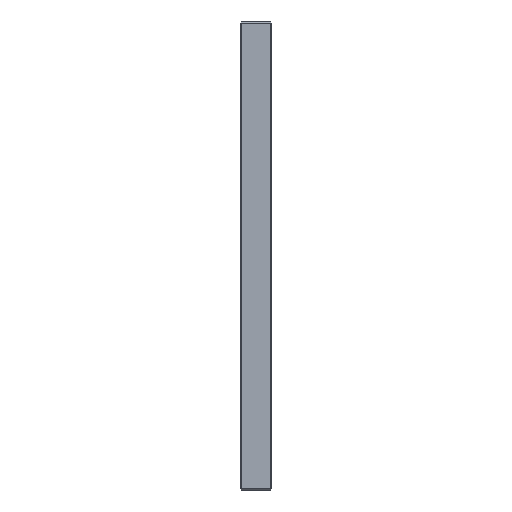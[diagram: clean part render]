
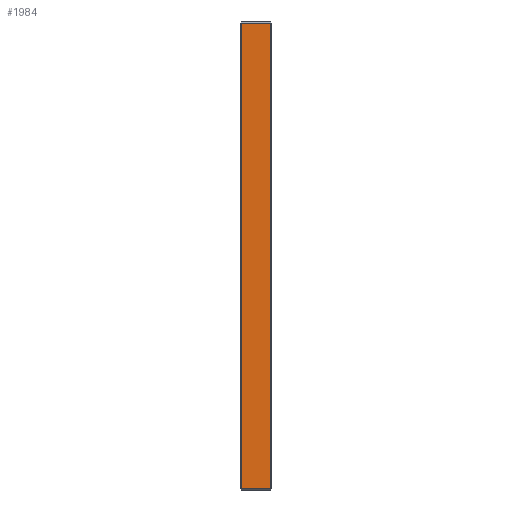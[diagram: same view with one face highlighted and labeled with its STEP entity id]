
A CAD part, left-side view. The second image highlights one B-rep face of the part: STEP entity #1984.
In plain terms, the highlighted planar face has unit normal (-1, 0, 0).
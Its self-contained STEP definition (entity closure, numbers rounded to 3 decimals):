
#72 = VERTEX_POINT ( 'NONE', #1438 ) ;
#175 = LINE ( 'NONE', #2238, #2079 ) ;
#228 = LINE ( 'NONE', #320, #808 ) ;
#259 = CARTESIAN_POINT ( 'NONE',  ( -223., 27., 198. ) ) ;
#320 = CARTESIAN_POINT ( 'NONE',  ( -223., 1., 198. ) ) ;
#433 = EDGE_CURVE ( 'NONE', #1123, #2036, #1752, .T. ) ;
#456 = PLANE ( 'NONE',  #1269 ) ;
#575 = EDGE_LOOP ( 'NONE', ( #2106, #1151, #654, #1586 ) ) ;
#611 = EDGE_CURVE ( 'NONE', #1262, #72, #228, .T. ) ;
#643 = DIRECTION ( 'NONE',  ( 1., 0., 0. ) ) ;
#654 = ORIENTED_EDGE ( 'NONE', *, *, #1725, .T. ) ;
#796 = DIRECTION ( 'NONE',  ( 0., -1., 0. ) ) ;
#808 = VECTOR ( 'NONE', #1445, 1000. ) ;
#809 = FACE_OUTER_BOUND ( 'NONE', #575, .T. ) ;
#821 = DIRECTION ( 'NONE',  ( 0., 0., -1. ) ) ;
#839 = VECTOR ( 'NONE', #1499, 1000. ) ;
#1123 = VERTEX_POINT ( 'NONE', #2235 ) ;
#1151 = ORIENTED_EDGE ( 'NONE', *, *, #611, .T. ) ;
#1262 = VERTEX_POINT ( 'NONE', #1410 ) ;
#1269 = AXIS2_PLACEMENT_3D ( 'NONE', #259, #643, #821 ) ;
#1349 = CARTESIAN_POINT ( 'NONE',  ( -223., 26., -197. ) ) ;
#1399 = CARTESIAN_POINT ( 'NONE',  ( -223., 26., -198. ) ) ;
#1410 = CARTESIAN_POINT ( 'NONE',  ( -223., 1., -197. ) ) ;
#1438 = CARTESIAN_POINT ( 'NONE',  ( -223., 1., 197. ) ) ;
#1445 = DIRECTION ( 'NONE',  ( 0., 0., 1. ) ) ;
#1494 = CARTESIAN_POINT ( 'NONE',  ( -223., 27., 197. ) ) ;
#1499 = DIRECTION ( 'NONE',  ( 0., 1., 0. ) ) ;
#1585 = DIRECTION ( 'NONE',  ( 0., 0., -1. ) ) ;
#1586 = ORIENTED_EDGE ( 'NONE', *, *, #433, .T. ) ;
#1725 = EDGE_CURVE ( 'NONE', #72, #1123, #1863, .T. ) ;
#1752 = LINE ( 'NONE', #1399, #2160 ) ;
#1863 = LINE ( 'NONE', #1494, #839 ) ;
#1984 = ADVANCED_FACE ( 'NONE', ( #809 ), #456, .F. ) ;
#2014 = EDGE_CURVE ( 'NONE', #2036, #1262, #175, .T. ) ;
#2036 = VERTEX_POINT ( 'NONE', #1349 ) ;
#2079 = VECTOR ( 'NONE', #796, 1000. ) ;
#2106 = ORIENTED_EDGE ( 'NONE', *, *, #2014, .T. ) ;
#2160 = VECTOR ( 'NONE', #1585, 1000. ) ;
#2235 = CARTESIAN_POINT ( 'NONE',  ( -223., 26., 197. ) ) ;
#2238 = CARTESIAN_POINT ( 'NONE',  ( -223., 27., -197. ) ) ;
